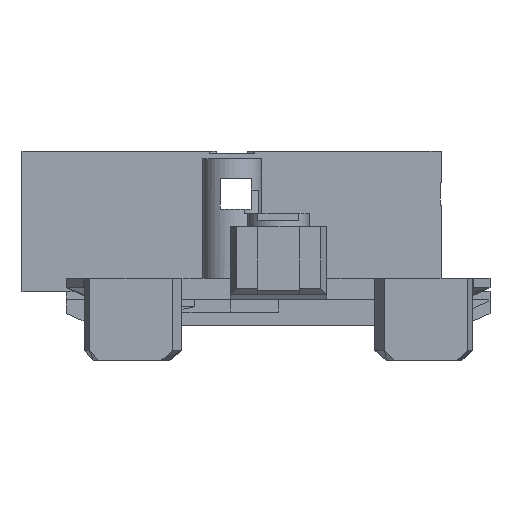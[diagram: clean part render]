
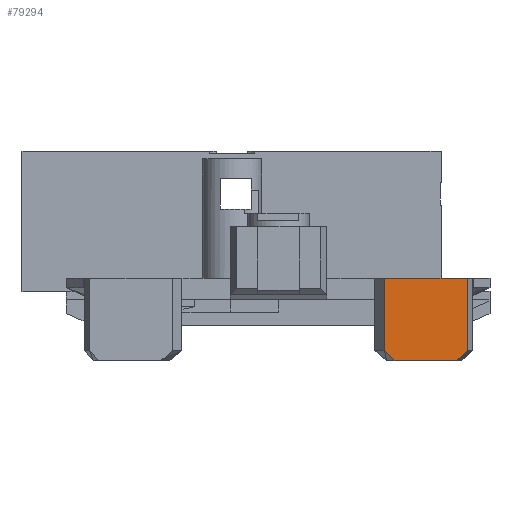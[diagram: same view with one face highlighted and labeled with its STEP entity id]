
A CAD part, left-side view. The second image highlights one B-rep face of the part: STEP entity #79294.
In plain terms, the highlighted planar face has unit normal (-1, 0, 0).
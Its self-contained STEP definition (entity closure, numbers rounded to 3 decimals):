
#32 = PLANE('',#33);
#33 = AXIS2_PLACEMENT_3D('',#34,#35,#36);
#34 = CARTESIAN_POINT('',(-40.,-25.,6.4));
#35 = DIRECTION('',(0.,0.,1.));
#36 = DIRECTION('',(1.,0.,-0.));
#170 = VERTEX_POINT('',#171);
#171 = CARTESIAN_POINT('',(-18.527,-8.261,6.4));
#185 = PLANE('',#186);
#186 = AXIS2_PLACEMENT_3D('',#187,#188,#189);
#187 = CARTESIAN_POINT('',(-18.227,-8.058,9.931
    ));
#188 = DIRECTION('',(-0.56,0.829,0.));
#189 = DIRECTION('',(0.829,0.56,0.));
#197 = EDGE_CURVE('',#198,#170,#200,.T.);
#198 = VERTEX_POINT('',#199);
#199 = CARTESIAN_POINT('',(-18.527,-14.707,6.4));
#200 = SURFACE_CURVE('',#201,(#205,#212),.PCURVE_S1.);
#201 = LINE('',#202,#203);
#202 = CARTESIAN_POINT('',(-18.527,-19.765,6.4));
#203 = VECTOR('',#204,1.);
#204 = DIRECTION('',(0.,1.,0.));
#205 = PCURVE('',#32,#206);
#206 = DEFINITIONAL_REPRESENTATION('',(#207),#211);
#207 = LINE('',#208,#209);
#208 = CARTESIAN_POINT('',(21.473,5.235));
#209 = VECTOR('',#210,1.);
#210 = DIRECTION('',(0.,1.));
#211 = ( GEOMETRIC_REPRESENTATION_CONTEXT(2) 
PARAMETRIC_REPRESENTATION_CONTEXT() REPRESENTATION_CONTEXT('2D SPACE',''
  ) );
#212 = PCURVE('',#213,#218);
#213 = PLANE('',#214);
#214 = AXIS2_PLACEMENT_3D('',#215,#216,#217);
#215 = CARTESIAN_POINT('',(-18.527,-14.531,
    10.066));
#216 = DIRECTION('',(-1.,-0.,-0.));
#217 = DIRECTION('',(0.,0.,-1.));
#218 = DEFINITIONAL_REPRESENTATION('',(#219),#223);
#219 = LINE('',#220,#221);
#220 = CARTESIAN_POINT('',(3.666,5.235));
#221 = VECTOR('',#222,1.);
#222 = DIRECTION('',(0.,-1.));
#223 = ( GEOMETRIC_REPRESENTATION_CONTEXT(2) 
PARAMETRIC_REPRESENTATION_CONTEXT() REPRESENTATION_CONTEXT('2D SPACE',''
  ) );
#241 = PLANE('',#242);
#242 = AXIS2_PLACEMENT_3D('',#243,#244,#245);
#243 = CARTESIAN_POINT('',(-18.23,-14.82,
    10.487));
#244 = DIRECTION('',(-0.355,-0.935,-0.));
#245 = DIRECTION('',(-0.935,0.355,0.));
#44497 = PLANE('',#44498);
#44498 = AXIS2_PLACEMENT_3D('',#44499,#44500,#44501);
#44499 = CARTESIAN_POINT('',(-16.37,-9.793,0.));
#44500 = DIRECTION('',(-0.,-0.,-1.));
#44501 = DIRECTION('',(-1.,0.,0.));
#44617 = VERTEX_POINT('',#44618);
#44618 = CARTESIAN_POINT('',(-18.527,-13.847,0.));
#44644 = EDGE_CURVE('',#44617,#44645,#44647,.T.);
#44645 = VERTEX_POINT('',#44646);
#44646 = CARTESIAN_POINT('',(-18.527,-9.087,0.));
#44647 = SURFACE_CURVE('',#44648,(#44652,#44659),.PCURVE_S1.);
#44648 = LINE('',#44649,#44650);
#44649 = CARTESIAN_POINT('',(-18.527,-13.847,0.));
#44650 = VECTOR('',#44651,1.);
#44651 = DIRECTION('',(0.,1.,0.));
#44652 = PCURVE('',#44497,#44653);
#44653 = DEFINITIONAL_REPRESENTATION('',(#44654),#44658);
#44654 = LINE('',#44655,#44656);
#44655 = CARTESIAN_POINT('',(2.157,-4.054));
#44656 = VECTOR('',#44657,1.);
#44657 = DIRECTION('',(0.,1.));
#44658 = ( GEOMETRIC_REPRESENTATION_CONTEXT(2) 
PARAMETRIC_REPRESENTATION_CONTEXT() REPRESENTATION_CONTEXT('2D SPACE',''
  ) );
#44659 = PCURVE('',#213,#44660);
#44660 = DEFINITIONAL_REPRESENTATION('',(#44661),#44665);
#44661 = LINE('',#44662,#44663);
#44662 = CARTESIAN_POINT('',(10.066,-0.684));
#44663 = VECTOR('',#44664,1.);
#44664 = DIRECTION('',(0.,-1.));
#44665 = ( GEOMETRIC_REPRESENTATION_CONTEXT(2) 
PARAMETRIC_REPRESENTATION_CONTEXT() REPRESENTATION_CONTEXT('2D SPACE',''
  ) );
#44683 = PLANE('',#44684);
#44684 = AXIS2_PLACEMENT_3D('',#44685,#44686,#44687);
#44685 = CARTESIAN_POINT('',(-18.148,-8.584,
    0.257));
#44686 = DIRECTION('',(-0.384,0.633,-0.672));
#44687 = DIRECTION('',(0.,-0.728,
    -0.686));
#44783 = VERTEX_POINT('',#44784);
#44784 = CARTESIAN_POINT('',(-18.527,-8.261,
    0.778));
#44880 = EDGE_CURVE('',#44783,#44645,#44881,.T.);
#44881 = SURFACE_CURVE('',#44882,(#44886,#44893),.PCURVE_S1.);
#44882 = LINE('',#44883,#44884);
#44883 = CARTESIAN_POINT('',(-18.527,-8.261,
    0.778));
#44884 = VECTOR('',#44885,1.);
#44885 = DIRECTION('',(0.,-0.728,-0.686));
#44886 = PCURVE('',#44683,#44887);
#44887 = DEFINITIONAL_REPRESENTATION('',(#44888),#44892);
#44888 = LINE('',#44889,#44890);
#44889 = CARTESIAN_POINT('',(-0.592,0.41));
#44890 = VECTOR('',#44891,1.);
#44891 = DIRECTION('',(1.,0.));
#44892 = ( GEOMETRIC_REPRESENTATION_CONTEXT(2) 
PARAMETRIC_REPRESENTATION_CONTEXT() REPRESENTATION_CONTEXT('2D SPACE',''
  ) );
#44893 = PCURVE('',#213,#44894);
#44894 = DEFINITIONAL_REPRESENTATION('',(#44895),#44899);
#44895 = LINE('',#44896,#44897);
#44896 = CARTESIAN_POINT('',(9.288,-6.27));
#44897 = VECTOR('',#44898,1.);
#44898 = DIRECTION('',(0.686,0.728));
#44899 = ( GEOMETRIC_REPRESENTATION_CONTEXT(2) 
PARAMETRIC_REPRESENTATION_CONTEXT() REPRESENTATION_CONTEXT('2D SPACE',''
  ) );
#44947 = PLANE('',#44948);
#44948 = AXIS2_PLACEMENT_3D('',#44949,#44950,#44951);
#44949 = CARTESIAN_POINT('',(-18.135,-14.546,
    0.497));
#44950 = DIRECTION('',(-0.247,-0.65,-0.719)
  );
#44951 = DIRECTION('',(0.,-0.742,
    0.671));
#44964 = VERTEX_POINT('',#44965);
#44965 = CARTESIAN_POINT('',(-18.527,-14.707,
    0.778));
#44986 = EDGE_CURVE('',#44617,#44964,#44987,.T.);
#44987 = SURFACE_CURVE('',#44988,(#44992,#44999),.PCURVE_S1.);
#44988 = LINE('',#44989,#44990);
#44989 = CARTESIAN_POINT('',(-18.527,-13.847,0.));
#44990 = VECTOR('',#44991,1.);
#44991 = DIRECTION('',(0.,-0.742,0.671));
#44992 = PCURVE('',#44947,#44993);
#44993 = DEFINITIONAL_REPRESENTATION('',(#44994),#44998);
#44994 = LINE('',#44995,#44996);
#44995 = CARTESIAN_POINT('',(-0.852,0.404));
#44996 = VECTOR('',#44997,1.);
#44997 = DIRECTION('',(1.,0.));
#44998 = ( GEOMETRIC_REPRESENTATION_CONTEXT(2) 
PARAMETRIC_REPRESENTATION_CONTEXT() REPRESENTATION_CONTEXT('2D SPACE',''
  ) );
#44999 = PCURVE('',#213,#45000);
#45000 = DEFINITIONAL_REPRESENTATION('',(#45001),#45005);
#45001 = LINE('',#45002,#45003);
#45002 = CARTESIAN_POINT('',(10.066,-0.684));
#45003 = VECTOR('',#45004,1.);
#45004 = DIRECTION('',(-0.671,0.742));
#45005 = ( GEOMETRIC_REPRESENTATION_CONTEXT(2) 
PARAMETRIC_REPRESENTATION_CONTEXT() REPRESENTATION_CONTEXT('2D SPACE',''
  ) );
#79244 = EDGE_CURVE('',#198,#44964,#79245,.T.);
#79245 = SURFACE_CURVE('',#79246,(#79250,#79257),.PCURVE_S1.);
#79246 = LINE('',#79247,#79248);
#79247 = CARTESIAN_POINT('',(-18.527,-14.707,
    13.284));
#79248 = VECTOR('',#79249,1.);
#79249 = DIRECTION('',(0.,0.,-1.));
#79250 = PCURVE('',#241,#79251);
#79251 = DEFINITIONAL_REPRESENTATION('',(#79252),#79256);
#79252 = LINE('',#79253,#79254);
#79253 = CARTESIAN_POINT('',(0.318,-2.797));
#79254 = VECTOR('',#79255,1.);
#79255 = DIRECTION('',(0.,1.));
#79256 = ( GEOMETRIC_REPRESENTATION_CONTEXT(2) 
PARAMETRIC_REPRESENTATION_CONTEXT() REPRESENTATION_CONTEXT('2D SPACE',''
  ) );
#79257 = PCURVE('',#213,#79258);
#79258 = DEFINITIONAL_REPRESENTATION('',(#79259),#79263);
#79259 = LINE('',#79260,#79261);
#79260 = CARTESIAN_POINT('',(-3.218,0.176));
#79261 = VECTOR('',#79262,1.);
#79262 = DIRECTION('',(1.,0.));
#79263 = ( GEOMETRIC_REPRESENTATION_CONTEXT(2) 
PARAMETRIC_REPRESENTATION_CONTEXT() REPRESENTATION_CONTEXT('2D SPACE',''
  ) );
#79294 = ADVANCED_FACE('',(#79295),#213,.T.);
#79295 = FACE_BOUND('',#79296,.T.);
#79296 = EDGE_LOOP('',(#79297,#79298,#79299,#79320,#79321,#79322));
#79297 = ORIENTED_EDGE('',*,*,#79244,.F.);
#79298 = ORIENTED_EDGE('',*,*,#197,.T.);
#79299 = ORIENTED_EDGE('',*,*,#79300,.T.);
#79300 = EDGE_CURVE('',#170,#44783,#79301,.T.);
#79301 = SURFACE_CURVE('',#79302,(#79306,#79313),.PCURVE_S1.);
#79302 = LINE('',#79303,#79304);
#79303 = CARTESIAN_POINT('',(-18.527,-8.261,
    13.284));
#79304 = VECTOR('',#79305,1.);
#79305 = DIRECTION('',(0.,0.,-1.));
#79306 = PCURVE('',#213,#79307);
#79307 = DEFINITIONAL_REPRESENTATION('',(#79308),#79312);
#79308 = LINE('',#79309,#79310);
#79309 = CARTESIAN_POINT('',(-3.218,-6.27));
#79310 = VECTOR('',#79311,1.);
#79311 = DIRECTION('',(1.,0.));
#79312 = ( GEOMETRIC_REPRESENTATION_CONTEXT(2) 
PARAMETRIC_REPRESENTATION_CONTEXT() REPRESENTATION_CONTEXT('2D SPACE',''
  ) );
#79313 = PCURVE('',#185,#79314);
#79314 = DEFINITIONAL_REPRESENTATION('',(#79315),#79319);
#79315 = LINE('',#79316,#79317);
#79316 = CARTESIAN_POINT('',(-0.362,-3.353));
#79317 = VECTOR('',#79318,1.);
#79318 = DIRECTION('',(0.,1.));
#79319 = ( GEOMETRIC_REPRESENTATION_CONTEXT(2) 
PARAMETRIC_REPRESENTATION_CONTEXT() REPRESENTATION_CONTEXT('2D SPACE',''
  ) );
#79320 = ORIENTED_EDGE('',*,*,#44880,.T.);
#79321 = ORIENTED_EDGE('',*,*,#44644,.F.);
#79322 = ORIENTED_EDGE('',*,*,#44986,.T.);
